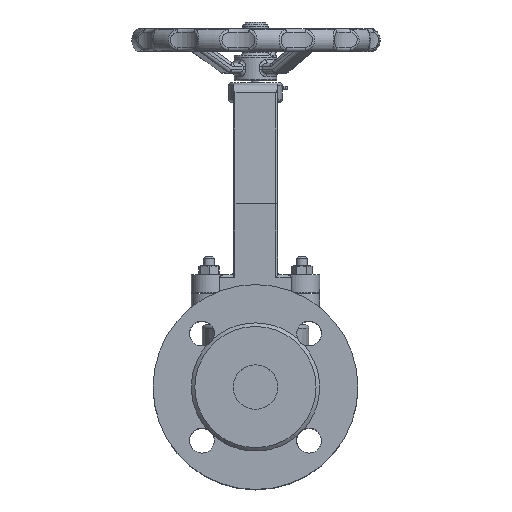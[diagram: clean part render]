
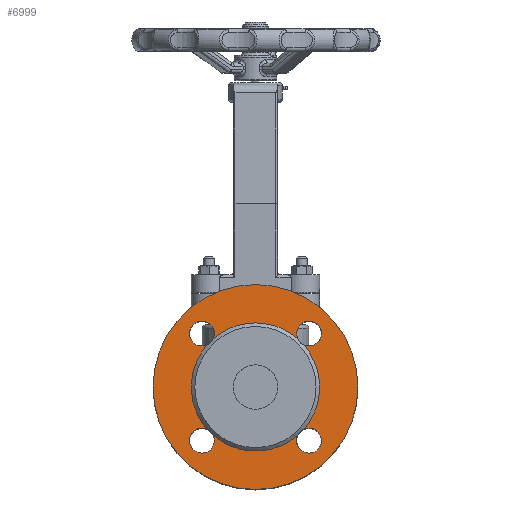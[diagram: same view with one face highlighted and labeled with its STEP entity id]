
A CAD part, top view. The second image highlights one B-rep face of the part: STEP entity #6999.
In plain terms, the highlighted planar face has unit normal (0, 0, 1).
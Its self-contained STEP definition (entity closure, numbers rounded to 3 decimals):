
#6999=ADVANCED_FACE('',(#15072,#15074),#15076,.F.);
#15072=FACE_BOUND('',#15073,.T.);
#15073=EDGE_LOOP('',(#22108));
#15074=FACE_BOUND('',#15075,.T.);
#15075=EDGE_LOOP('',(#22109,#22110,#22111,#22112,#22113,#22114,#22115,#22116,#22117,
#22118,#22119,#22120,#22121));
#15076=PLANE('',#15077);
#15077=AXIS2_PLACEMENT_3D('',#15078,#15079,#15080);
#15078=CARTESIAN_POINT('',(0.,0.,78.));
#15079=DIRECTION('',(0.,0.,-1.));
#15080=DIRECTION('',(0.,1.,0.));
#22108=ORIENTED_EDGE('',*,*,#24935,.T.);
#22109=ORIENTED_EDGE('',*,*,#24938,.T.);
#22110=ORIENTED_EDGE('',*,*,#25165,.F.);
#22111=ORIENTED_EDGE('',*,*,#24945,.T.);
#22112=ORIENTED_EDGE('',*,*,#24947,.T.);
#22113=ORIENTED_EDGE('',*,*,#25166,.F.);
#22114=ORIENTED_EDGE('',*,*,#24940,.T.);
#22115=ORIENTED_EDGE('',*,*,#24939,.T.);
#22116=ORIENTED_EDGE('',*,*,#25167,.F.);
#22117=ORIENTED_EDGE('',*,*,#25168,.F.);
#22118=ORIENTED_EDGE('',*,*,#24943,.T.);
#22119=ORIENTED_EDGE('',*,*,#24942,.T.);
#22120=ORIENTED_EDGE('',*,*,#25169,.F.);
#22121=ORIENTED_EDGE('',*,*,#24936,.T.);
#24935=EDGE_CURVE('',#28639,#28639,#28640,.T.);
#24936=EDGE_CURVE('',#28641,#28642,#28643,.T.);
#24938=EDGE_CURVE('',#28642,#28644,#28646,.T.);
#24939=EDGE_CURVE('',#28647,#28648,#28649,.T.);
#24940=EDGE_CURVE('',#28650,#28647,#28651,.T.);
#24942=EDGE_CURVE('',#28653,#28654,#28655,.T.);
#24943=EDGE_CURVE('',#28656,#28653,#28657,.T.);
#24945=EDGE_CURVE('',#28659,#28660,#28661,.T.);
#24947=EDGE_CURVE('',#28660,#28662,#28664,.T.);
#25165=EDGE_CURVE('',#28659,#28644,#29015,.T.);
#25166=EDGE_CURVE('',#28650,#28662,#29016,.T.);
#25167=EDGE_CURVE('',#29017,#28648,#29018,.T.);
#25168=EDGE_CURVE('',#28656,#29017,#29019,.T.);
#25169=EDGE_CURVE('',#28641,#28654,#29020,.T.);
#28639=VERTEX_POINT('',#57501);
#28640=CIRCLE('',#57502,57.5);
#28641=VERTEX_POINT('',#57506);
#28642=VERTEX_POINT('',#57507);
#28643=CIRCLE('',#57508,7.);
#28644=VERTEX_POINT('',#57512);
#28646=CIRCLE('',#57570,7.);
#28647=VERTEX_POINT('',#57574);
#28648=VERTEX_POINT('',#57575);
#28649=CIRCLE('',#57576,7.);
#28650=VERTEX_POINT('',#57580);
#28651=CIRCLE('',#57581,7.);
#28653=VERTEX_POINT('',#57642);
#28654=VERTEX_POINT('',#57643);
#28655=CIRCLE('',#57644,7.);
#28656=VERTEX_POINT('',#57648);
#28657=CIRCLE('',#57649,7.);
#28659=VERTEX_POINT('',#57710);
#28660=VERTEX_POINT('',#57711);
#28661=CIRCLE('',#57712,7.);
#28662=VERTEX_POINT('',#57716);
#28664=CIRCLE('',#57774,7.);
#29015=CIRCLE('',#59226,36.);
#29016=CIRCLE('',#59230,36.);
#29017=VERTEX_POINT('',#59234);
#29018=CIRCLE('',#59235,36.);
#29019=CIRCLE('',#59239,36.);
#29020=CIRCLE('',#59243,36.);
#57501=CARTESIAN_POINT('',(0.,57.5,78.));
#57502=AXIS2_PLACEMENT_3D('',#57503,#57504,#57505);
#57503=CARTESIAN_POINT('',(0.,0.,78.));
#57504=DIRECTION('',(0.,0.,1.));
#57505=DIRECTION('',(0.,1.,0.));
#57506=CARTESIAN_POINT('',(27.09,-23.71,78.));
#57507=CARTESIAN_POINT('',(30.052,-23.052,78.));
#57508=AXIS2_PLACEMENT_3D('',#57509,#57510,#57511);
#57509=CARTESIAN_POINT('',(30.052,-30.052,78.));
#57510=DIRECTION('',(0.,0.,-1.));
#57511=DIRECTION('',(-0.423,0.906,0.));
#57512=CARTESIAN_POINT('',(23.71,-27.09,78.));
#57570=AXIS2_PLACEMENT_3D('',#57571,#57572,#57573);
#57571=CARTESIAN_POINT('',(30.052,-30.052,78.));
#57572=DIRECTION('',(0.,0.,-1.));
#57573=DIRECTION('',(0.,1.,0.));
#57574=CARTESIAN_POINT('',(-30.052,23.052,78.));
#57575=CARTESIAN_POINT('',(-23.71,27.09,78.));
#57576=AXIS2_PLACEMENT_3D('',#57577,#57578,#57579);
#57577=CARTESIAN_POINT('',(-30.052,30.052,78.));
#57578=DIRECTION('',(0.,0.,-1.));
#57579=DIRECTION('',(0.,-1.,0.));
#57580=CARTESIAN_POINT('',(-27.09,23.71,78.));
#57581=AXIS2_PLACEMENT_3D('',#57582,#57583,#57584);
#57582=CARTESIAN_POINT('',(-30.052,30.052,78.));
#57583=DIRECTION('',(0.,0.,-1.));
#57584=DIRECTION('',(0.423,-0.906,0.));
#57642=CARTESIAN_POINT('',(23.052,30.052,78.));
#57643=CARTESIAN_POINT('',(27.09,23.71,78.));
#57644=AXIS2_PLACEMENT_3D('',#57645,#57646,#57647);
#57645=CARTESIAN_POINT('',(30.052,30.052,78.));
#57646=DIRECTION('',(0.,0.,-1.));
#57647=DIRECTION('',(-1.,0.,0.));
#57648=CARTESIAN_POINT('',(23.71,27.09,78.));
#57649=AXIS2_PLACEMENT_3D('',#57650,#57651,#57652);
#57650=CARTESIAN_POINT('',(30.052,30.052,78.));
#57651=DIRECTION('',(0.,0.,-1.));
#57652=DIRECTION('',(-0.906,-0.423,0.));
#57710=CARTESIAN_POINT('',(-23.71,-27.09,78.));
#57711=CARTESIAN_POINT('',(-23.052,-30.052,78.));
#57712=AXIS2_PLACEMENT_3D('',#57713,#57714,#57715);
#57713=CARTESIAN_POINT('',(-30.052,-30.052,78.));
#57714=DIRECTION('',(0.,0.,-1.));
#57715=DIRECTION('',(0.906,0.423,0.));
#57716=CARTESIAN_POINT('',(-27.09,-23.71,78.));
#57774=AXIS2_PLACEMENT_3D('',#57775,#57776,#57777);
#57775=CARTESIAN_POINT('',(-30.052,-30.052,78.));
#57776=DIRECTION('',(0.,0.,-1.));
#57777=DIRECTION('',(1.,0.,0.));
#59226=AXIS2_PLACEMENT_3D('',#59227,#59228,#59229);
#59227=CARTESIAN_POINT('',(0.,0.,78.));
#59228=DIRECTION('',(0.,0.,1.));
#59229=DIRECTION('',(-0.659,-0.752,0.));
#59230=AXIS2_PLACEMENT_3D('',#59231,#59232,#59233);
#59231=CARTESIAN_POINT('',(0.,0.,78.));
#59232=DIRECTION('',(0.,0.,1.));
#59233=DIRECTION('',(-0.752,0.659,0.));
#59234=CARTESIAN_POINT('',(0.,36.,78.));
#59235=AXIS2_PLACEMENT_3D('',#59236,#59237,#59238);
#59236=CARTESIAN_POINT('',(0.,0.,78.));
#59237=DIRECTION('',(0.,0.,1.));
#59238=DIRECTION('',(0.,1.,0.));
#59239=AXIS2_PLACEMENT_3D('',#59240,#59241,#59242);
#59240=CARTESIAN_POINT('',(0.,0.,78.));
#59241=DIRECTION('',(0.,0.,1.));
#59242=DIRECTION('',(0.659,0.752,0.));
#59243=AXIS2_PLACEMENT_3D('',#59244,#59245,#59246);
#59244=CARTESIAN_POINT('',(0.,0.,78.));
#59245=DIRECTION('',(0.,0.,1.));
#59246=DIRECTION('',(0.752,-0.659,0.));
